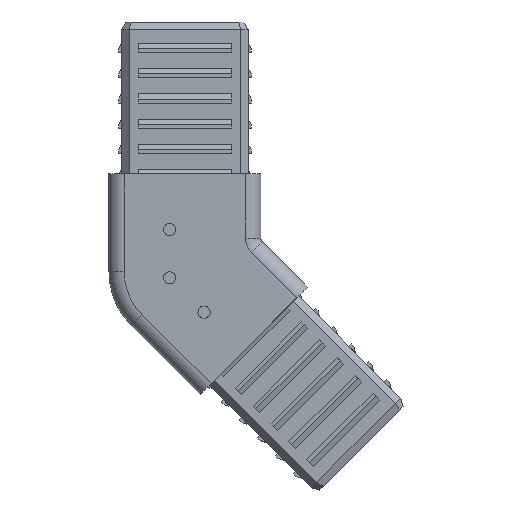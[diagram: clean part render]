
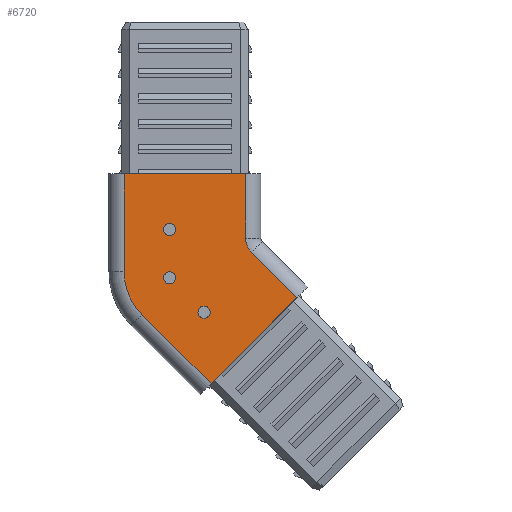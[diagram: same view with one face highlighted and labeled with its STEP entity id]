
A CAD part, top view. The second image highlights one B-rep face of the part: STEP entity #6720.
In plain terms, the highlighted planar face has unit normal (0, 0, 1).
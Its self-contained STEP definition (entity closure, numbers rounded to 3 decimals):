
#22 = DIRECTION ( 'NONE',  ( 0., 0., 1. ) ) ;
#56 = DIRECTION ( 'NONE',  ( 1., 0., 0. ) ) ;
#90 = DIRECTION ( 'NONE',  ( 0., 0., 1. ) ) ;
#97 = DIRECTION ( 'NONE',  ( 1., 0., 0. ) ) ;
#109 = DIRECTION ( 'NONE',  ( -1., 0., 0. ) ) ;
#125 = AXIS2_PLACEMENT_3D ( 'NONE', #8073, #2302, #8135 ) ;
#239 = PLANE ( 'NONE',  #8559 ) ;
#330 = CARTESIAN_POINT ( 'NONE',  ( -4.2, -2.441, 15. ) ) ;
#369 = DIRECTION ( 'NONE',  ( 0., 0., 1. ) ) ;
#457 = VECTOR ( 'NONE', #1489, 1000. ) ;
#461 = EDGE_CURVE ( 'NONE', #3456, #7381, #4658, .T. ) ;
#475 = VECTOR ( 'NONE', #3403, 1000. ) ;
#564 = CARTESIAN_POINT ( 'NONE',  ( 12., 0., 15. ) ) ;
#590 = AXIS2_PLACEMENT_3D ( 'NONE', #6530, #2083, #2841 ) ;
#711 = VECTOR ( 'NONE', #8454, 1000. ) ;
#746 = CARTESIAN_POINT ( 'NONE',  ( 4.978, -9.219, 15. ) ) ;
#800 = CARTESIAN_POINT ( 'NONE',  ( -8.485, -9.684, 15. ) ) ;
#874 = AXIS2_PLACEMENT_3D ( 'NONE', #2631, #369, #1150 ) ;
#934 = CARTESIAN_POINT ( 'NONE',  ( 0., 0., 15. ) ) ;
#1013 = VERTEX_POINT ( 'NONE', #3770 ) ;
#1036 = EDGE_CURVE ( 'NONE', #8431, #8098, #8490, .T. ) ;
#1059 = AXIS2_PLACEMENT_3D ( 'NONE', #6209, #3258, #5453 ) ;
#1150 = DIRECTION ( 'NONE',  ( 1., 0., 0. ) ) ;
#1489 = DIRECTION ( 'NONE',  ( 0., -1., 0. ) ) ;
#1529 = LINE ( 'NONE', #8806, #457 ) ;
#1650 = DIRECTION ( 'NONE',  ( 0., 0., 1. ) ) ;
#1681 = EDGE_LOOP ( 'NONE', ( #5969, #9630 ) ) ;
#2083 = DIRECTION ( 'NONE',  ( 0., 0., 1. ) ) ;
#2286 = CARTESIAN_POINT ( 'NONE',  ( 3.778, -9.219, 15. ) ) ;
#2302 = DIRECTION ( 'NONE',  ( 0., 0., 1. ) ) ;
#2466 = CARTESIAN_POINT ( 'NONE',  ( -4.2, 7.144, 15. ) ) ;
#2501 = EDGE_LOOP ( 'NONE', ( #9558, #9545, #7705, #2665, #9249, #8991, #8816, #4817 ) ) ;
#2631 = CARTESIAN_POINT ( 'NONE',  ( -3., 7.144, 15. ) ) ;
#2665 = ORIENTED_EDGE ( 'NONE', *, *, #5137, .T. ) ;
#2805 = AXIS2_PLACEMENT_3D ( 'NONE', #7767, #4717, #5491 ) ;
#2841 = DIRECTION ( 'NONE',  ( 1., 0., 0. ) ) ;
#2891 = DIRECTION ( 'NONE',  ( -1., 0., 0. ) ) ;
#3070 = EDGE_LOOP ( 'NONE', ( #4296, #6859 ) ) ;
#3182 = EDGE_LOOP ( 'NONE', ( #8056, #4107 ) ) ;
#3189 = CIRCLE ( 'NONE', #874, 1.2 ) ;
#3258 = DIRECTION ( 'NONE',  ( 0., 0., -1. ) ) ;
#3279 = FACE_BOUND ( 'NONE', #3182, .T. ) ;
#3364 = VERTEX_POINT ( 'NONE', #746 ) ;
#3403 = DIRECTION ( 'NONE',  ( -0.707, 0.707, 0. ) ) ;
#3456 = VERTEX_POINT ( 'NONE', #5221 ) ;
#3511 = CIRCLE ( 'NONE', #4398, 1.2 ) ;
#3770 = CARTESIAN_POINT ( 'NONE',  ( 2.578, -9.219, 15. ) ) ;
#3824 = CARTESIAN_POINT ( 'NONE',  ( 12., 18.1, 15. ) ) ;
#3855 = CIRCLE ( 'NONE', #125, 1.2 ) ;
#3898 = DIRECTION ( 'NONE',  ( -1., 0., 0. ) ) ;
#4017 = EDGE_CURVE ( 'NONE', #9145, #7724, #9417, .T. ) ;
#4045 = CARTESIAN_POINT ( 'NONE',  ( -9.085, -9.085, 15. ) ) ;
#4102 = EDGE_CURVE ( 'NONE', #5996, #9085, #5143, .T. ) ;
#4107 = ORIENTED_EDGE ( 'NONE', *, *, #4507, .F. ) ;
#4142 = DIRECTION ( 'NONE',  ( 0.707, -0.707, 0. ) ) ;
#4296 = ORIENTED_EDGE ( 'NONE', *, *, #8308, .F. ) ;
#4398 = AXIS2_PLACEMENT_3D ( 'NONE', #2286, #22, #97 ) ;
#4484 = VECTOR ( 'NONE', #8094, 1000. ) ;
#4507 = EDGE_CURVE ( 'NONE', #8098, #8431, #7949, .T. ) ;
#4537 = CARTESIAN_POINT ( 'NONE',  ( -3., -2.441, 15. ) ) ;
#4569 = CARTESIAN_POINT ( 'NONE',  ( 0., -1.199, 15. ) ) ;
#4658 = LINE ( 'NONE', #4847, #711 ) ;
#4717 = DIRECTION ( 'NONE',  ( 0., 0., 1. ) ) ;
#4766 = CIRCLE ( 'NONE', #2805, 1.2 ) ;
#4817 = ORIENTED_EDGE ( 'NONE', *, *, #8041, .T. ) ;
#4821 = AXIS2_PLACEMENT_3D ( 'NONE', #4569, #1650, #109 ) ;
#4847 = CARTESIAN_POINT ( 'NONE',  ( 3.04, -25.452, 15. ) ) ;
#4880 = FACE_BOUND ( 'NONE', #1681, .T. ) ;
#5071 = CARTESIAN_POINT ( 'NONE',  ( -12., -1.199, 15. ) ) ;
#5137 = EDGE_CURVE ( 'NONE', #7334, #9145, #5749, .T. ) ;
#5143 = CIRCLE ( 'NONE', #4821, 12. ) ;
#5221 = CARTESIAN_POINT ( 'NONE',  ( 22.132, -6.36, 15. ) ) ;
#5413 = VERTEX_POINT ( 'NONE', #2466 ) ;
#5453 = DIRECTION ( 'NONE',  ( -1., 0., 0. ) ) ;
#5491 = DIRECTION ( 'NONE',  ( 1., 0., 0. ) ) ;
#5544 = EDGE_CURVE ( 'NONE', #8568, #5413, #3189, .T. ) ;
#5581 = FACE_BOUND ( 'NONE', #3070, .T. ) ;
#5749 = LINE ( 'NONE', #564, #4484 ) ;
#5969 = ORIENTED_EDGE ( 'NONE', *, *, #5544, .F. ) ;
#5996 = VERTEX_POINT ( 'NONE', #5071 ) ;
#6144 = CARTESIAN_POINT ( 'NONE',  ( -1.8, -2.441, 15. ) ) ;
#6209 = CARTESIAN_POINT ( 'NONE',  ( 16., 5.429, 15. ) ) ;
#6271 = CIRCLE ( 'NONE', #1059, 4. ) ;
#6409 = VECTOR ( 'NONE', #4142, 1000. ) ;
#6530 = CARTESIAN_POINT ( 'NONE',  ( -3., -2.441, 15. ) ) ;
#6595 = CARTESIAN_POINT ( 'NONE',  ( -12., 18.1, 15. ) ) ;
#6636 = EDGE_CURVE ( 'NONE', #1013, #3364, #3511, .T. ) ;
#6720 = ADVANCED_FACE ( 'NONE', ( #5581, #4880, #3279, #7098 ), #239, .F. ) ;
#6725 = CARTESIAN_POINT ( 'NONE',  ( 12., 5.429, 15. ) ) ;
#6859 = ORIENTED_EDGE ( 'NONE', *, *, #6636, .F. ) ;
#7098 = FACE_OUTER_BOUND ( 'NONE', #2501, .T. ) ;
#7111 = LINE ( 'NONE', #9354, #475 ) ;
#7321 = CARTESIAN_POINT ( 'NONE',  ( -15., 18.1, 15. ) ) ;
#7334 = VERTEX_POINT ( 'NONE', #6725 ) ;
#7381 = VERTEX_POINT ( 'NONE', #7561 ) ;
#7480 = VECTOR ( 'NONE', #2891, 1000. ) ;
#7561 = CARTESIAN_POINT ( 'NONE',  ( 5.161, -23.33, 15. ) ) ;
#7705 = ORIENTED_EDGE ( 'NONE', *, *, #9275, .T. ) ;
#7707 = CARTESIAN_POINT ( 'NONE',  ( -1.8, 7.144, 15. ) ) ;
#7724 = VERTEX_POINT ( 'NONE', #6595 ) ;
#7767 = CARTESIAN_POINT ( 'NONE',  ( -3., 7.144, 15. ) ) ;
#7949 = CIRCLE ( 'NONE', #590, 1.2 ) ;
#8039 = LINE ( 'NONE', #4045, #6409 ) ;
#8041 = EDGE_CURVE ( 'NONE', #9085, #7381, #8039, .T. ) ;
#8056 = ORIENTED_EDGE ( 'NONE', *, *, #1036, .F. ) ;
#8073 = CARTESIAN_POINT ( 'NONE',  ( 3.778, -9.219, 15. ) ) ;
#8094 = DIRECTION ( 'NONE',  ( 0., 1., 0. ) ) ;
#8098 = VERTEX_POINT ( 'NONE', #330 ) ;
#8118 = EDGE_CURVE ( 'NONE', #3456, #8381, #7111, .T. ) ;
#8135 = DIRECTION ( 'NONE',  ( 1., 0., 0. ) ) ;
#8250 = CARTESIAN_POINT ( 'NONE',  ( 13.172, 2.6, 15. ) ) ;
#8308 = EDGE_CURVE ( 'NONE', #3364, #1013, #3855, .T. ) ;
#8381 = VERTEX_POINT ( 'NONE', #8250 ) ;
#8431 = VERTEX_POINT ( 'NONE', #6144 ) ;
#8454 = DIRECTION ( 'NONE',  ( -0.707, -0.707, 0. ) ) ;
#8490 = CIRCLE ( 'NONE', #9456, 1.2 ) ;
#8534 = EDGE_CURVE ( 'NONE', #5413, #8568, #4766, .T. ) ;
#8559 = AXIS2_PLACEMENT_3D ( 'NONE', #934, #9114, #3898 ) ;
#8568 = VERTEX_POINT ( 'NONE', #7707 ) ;
#8806 = CARTESIAN_POINT ( 'NONE',  ( -12., 0., 15. ) ) ;
#8816 = ORIENTED_EDGE ( 'NONE', *, *, #4102, .T. ) ;
#8991 = ORIENTED_EDGE ( 'NONE', *, *, #9052, .T. ) ;
#9052 = EDGE_CURVE ( 'NONE', #7724, #5996, #1529, .T. ) ;
#9085 = VERTEX_POINT ( 'NONE', #800 ) ;
#9114 = DIRECTION ( 'NONE',  ( 0., 0., -1. ) ) ;
#9145 = VERTEX_POINT ( 'NONE', #3824 ) ;
#9249 = ORIENTED_EDGE ( 'NONE', *, *, #4017, .T. ) ;
#9275 = EDGE_CURVE ( 'NONE', #8381, #7334, #6271, .T. ) ;
#9354 = CARTESIAN_POINT ( 'NONE',  ( 7.886, 7.886, 15. ) ) ;
#9417 = LINE ( 'NONE', #7321, #7480 ) ;
#9456 = AXIS2_PLACEMENT_3D ( 'NONE', #4537, #90, #56 ) ;
#9545 = ORIENTED_EDGE ( 'NONE', *, *, #8118, .T. ) ;
#9558 = ORIENTED_EDGE ( 'NONE', *, *, #461, .F. ) ;
#9630 = ORIENTED_EDGE ( 'NONE', *, *, #8534, .F. ) ;
